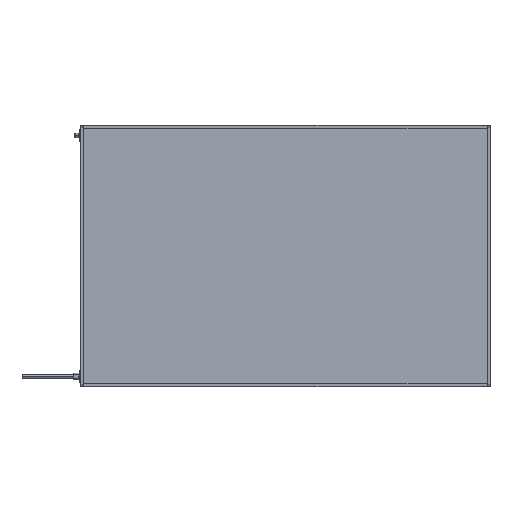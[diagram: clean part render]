
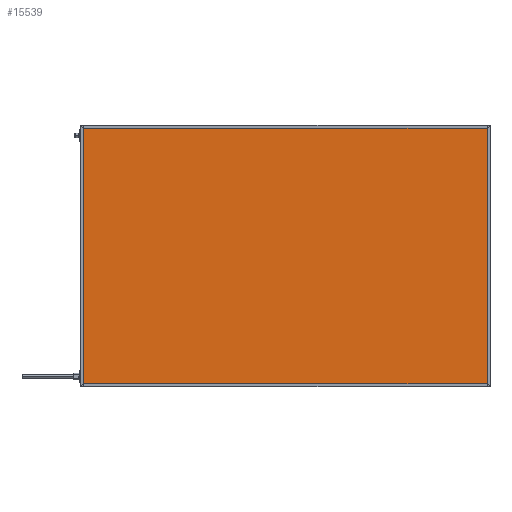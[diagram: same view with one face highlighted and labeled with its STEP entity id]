
A CAD part, top view. The second image highlights one B-rep face of the part: STEP entity #15539.
In plain terms, the highlighted planar face has unit normal (0, 0, 1).
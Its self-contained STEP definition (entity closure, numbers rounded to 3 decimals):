
#571 = DIRECTION ( 'NONE',  ( 0., 0., -1. ) ) ;
#822 = VERTEX_POINT ( 'NONE', #8623 ) ;
#1710 = ORIENTED_EDGE ( 'NONE', *, *, #14914, .T. ) ;
#1711 = VECTOR ( 'NONE', #15476, 1000. ) ;
#2740 = VERTEX_POINT ( 'NONE', #10955 ) ;
#2896 = ORIENTED_EDGE ( 'NONE', *, *, #5533, .T. ) ;
#3394 = PLANE ( 'NONE',  #4757 ) ;
#4127 = CARTESIAN_POINT ( 'NONE',  ( 0., 696., 41.85 ) ) ;
#4293 = DIRECTION ( 'NONE',  ( 0., -1., 0. ) ) ;
#4739 = VECTOR ( 'NONE', #9342, 1000. ) ;
#4757 = AXIS2_PLACEMENT_3D ( 'NONE', #14790, #571, #11856 ) ;
#5533 = EDGE_CURVE ( 'NONE', #2740, #822, #16835, .T. ) ;
#6148 = VECTOR ( 'NONE', #6587, 1000. ) ;
#6587 = DIRECTION ( 'NONE',  ( -1., 0., 0. ) ) ;
#8303 = CARTESIAN_POINT ( 'NONE',  ( 4., 0., 41.85 ) ) ;
#8623 = CARTESIAN_POINT ( 'NONE',  ( 1096., 4., 41.85 ) ) ;
#8814 = ORIENTED_EDGE ( 'NONE', *, *, #9575, .T. ) ;
#9342 = DIRECTION ( 'NONE',  ( 0., 1., 0. ) ) ;
#9370 = CARTESIAN_POINT ( 'NONE',  ( 4., 696., 41.85 ) ) ;
#9575 = EDGE_CURVE ( 'NONE', #15184, #12776, #10953, .T. ) ;
#9902 = CARTESIAN_POINT ( 'NONE',  ( 0., 4., 41.85 ) ) ;
#9939 = LINE ( 'NONE', #8303, #10249 ) ;
#10249 = VECTOR ( 'NONE', #4293, 1000. ) ;
#10709 = LINE ( 'NONE', #16283, #4739 ) ;
#10953 = LINE ( 'NONE', #4127, #6148 ) ;
#10955 = CARTESIAN_POINT ( 'NONE',  ( 4., 4., 41.85 ) ) ;
#11382 = ORIENTED_EDGE ( 'NONE', *, *, #15795, .T. ) ;
#11614 = CARTESIAN_POINT ( 'NONE',  ( 1096., 696., 41.85 ) ) ;
#11856 = DIRECTION ( 'NONE',  ( -1., 0., 0. ) ) ;
#12063 = EDGE_LOOP ( 'NONE', ( #1710, #8814, #11382, #2896 ) ) ;
#12776 = VERTEX_POINT ( 'NONE', #9370 ) ;
#13060 = FACE_OUTER_BOUND ( 'NONE', #12063, .T. ) ;
#14790 = CARTESIAN_POINT ( 'NONE',  ( 0., 0., 41.85 ) ) ;
#14914 = EDGE_CURVE ( 'NONE', #822, #15184, #10709, .T. ) ;
#15184 = VERTEX_POINT ( 'NONE', #11614 ) ;
#15476 = DIRECTION ( 'NONE',  ( 1., 0., 0. ) ) ;
#15539 = ADVANCED_FACE ( 'NONE', ( #13060 ), #3394, .F. ) ;
#15795 = EDGE_CURVE ( 'NONE', #12776, #2740, #9939, .T. ) ;
#16283 = CARTESIAN_POINT ( 'NONE',  ( 1096., 0., 41.85 ) ) ;
#16835 = LINE ( 'NONE', #9902, #1711 ) ;
